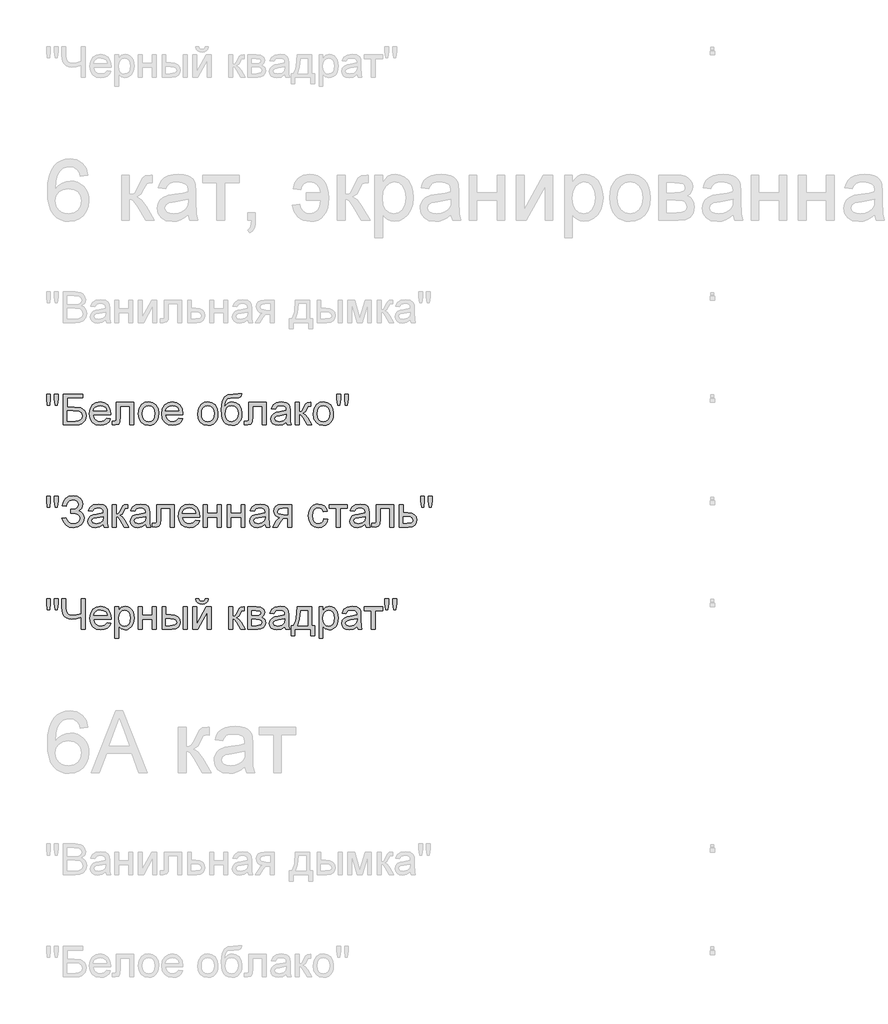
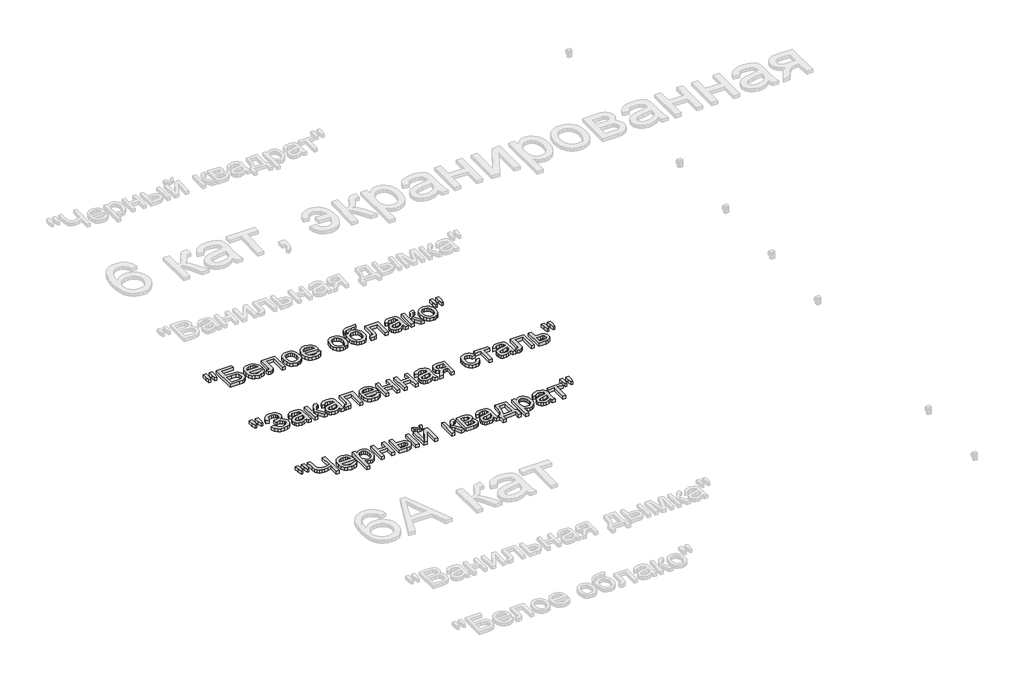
# One storey, part 62 of 168: 3 proxies.
"""IFC4 building model written with IfcOpenShell, lengths in millimetres."""

import ifcopenshell
import ifcopenshell.guid

model = None  # the IFC model being written
_history = None  # IfcOwnerHistory: only IFC2X3 demands one
_inside = {}  # id of a spatial element -> (the spatial element, [elements in it])
_under = {}  # id of a project, library or spatial element -> (it, [spatial elements below it])
_declared = {}  # id of a project -> (the project, [libraries it declares])
_typed = {}  # id of a type object -> (the type object, [elements of that type])
_made_of = {}  # id of a material, layer set ... -> (it, [elements and type objects made of it])


def new_model(schema):
    """Start an empty IFC model of exactly this schema.

    Asked for "IFC4X3", IfcOpenShell would pick the latest addendum, in which some entities
    have other attributes; the version numbers below select the first issue.
    IFC2X3 requires an IfcOwnerHistory on every rooted entity: one is made here for all.
    """
    global model, _history
    if schema == "IFC4X3":
        model = ifcopenshell.file(schema_version=(4, 3, 0, 0))
    else:
        model = ifcopenshell.file(schema=schema)
    _inside.clear()
    _under.clear()
    _declared.clear()
    _typed.clear()
    _made_of.clear()
    _history = None
    if model.schema == "IFC2X3":
        org = make("IfcOrganization", Name="unknown")
        user = make(
            "IfcPersonAndOrganization",
            ThePerson=make("IfcPerson", FamilyName="unknown"),
            TheOrganization=org,
        )
        app = make(
            "IfcApplication",
            ApplicationDeveloper=org,
            Version="unknown",
            ApplicationFullName="unknown",
            ApplicationIdentifier="unknown",
        )
        _history = make(
            "IfcOwnerHistory",
            OwningUser=user,
            OwningApplication=app,
            ChangeAction="ADDED",
            CreationDate=0,
        )
    return model


def make(cls, **values):
    """One entity of the class cls with the attributes given. An attribute that is None is left unset."""
    return model.create_entity(
        cls, **{name: value for name, value in values.items() if value is not None}
    )


def rooted(cls, **values):
    """An entity with a GlobalId (a new one), such as an element, a storey or a relation."""
    return make(cls, GlobalId=ifcopenshell.guid.new(), OwnerHistory=_history, **values)


def si_unit(unit_type, name, prefix=None):
    """IfcSIUnit, for example si_unit("LENGTHUNIT", "METRE", prefix="MILLI")."""
    return make("IfcSIUnit", UnitType=unit_type, Prefix=prefix, Name=name)


def assignment(units):
    """IfcUnitAssignment: the units of a project."""
    return None if units is None else make("IfcUnitAssignment", Units=units)


def point(xyz):
    """IfcCartesianPoint."""
    return None if xyz is None else make("IfcCartesianPoint", Coordinates=xyz)


def direction(xyz):
    """IfcDirection."""
    return None if xyz is None else make("IfcDirection", DirectionRatios=xyz)


def frame(location, z_axis=None, x_axis=None):
    """IfcAxis2Placement3D, a coordinate frame: its origin and axes. An axis left out is left unset."""
    return make(
        "IfcAxis2Placement3D",
        Location=point(location),
        Axis=direction(z_axis),
        RefDirection=direction(x_axis),
    )


def origin():
    """The frame at (0, 0, 0) with its axes left unset."""
    return frame((0.0, 0.0, 0.0))


def origin_with_axes():
    """The frame at (0, 0, 0) with the z axis (0, 0, 1) and the x axis (1, 0, 0) written out."""
    return frame((0.0, 0.0, 0.0), z_axis=(0.0, 0.0, 1.0), x_axis=(1.0, 0.0, 0.0))


def place(relative_to, where):
    """IfcLocalPlacement: puts the frame where relative to a parent placement (None: the world)."""
    return make(
        "IfcLocalPlacement", PlacementRelTo=relative_to, RelativePlacement=where
    )


def context(
    kind, dimensions, precision=None, world=None, true_north=None, identifier=None
):
    """IfcGeometricRepresentationContext, for example the 3D "Model" context."""
    return make(
        "IfcGeometricRepresentationContext",
        ContextIdentifier=identifier,
        ContextType=kind,
        CoordinateSpaceDimension=dimensions,
        Precision=precision,
        WorldCoordinateSystem=world,
        TrueNorth=true_north,
    )


def project(units=None, contexts=None):
    """IfcProject with its units and contexts."""
    return rooted(
        "IfcProject",
        Name="project",
        RepresentationContexts=contexts,
        UnitsInContext=assignment(units),
    )


def spatial(cls, under=None, at=None, **own):
    """A site, building, storey or space (cls), placed at a placement, below another one or the project."""
    s = rooted(cls, ObjectPlacement=at, **own)
    if under is not None:
        _under.setdefault(under.id(), (under, []))[1].append(s)
    return s


def polyline(points):
    """IfcPolyline through the points."""
    return make("IfcPolyline", Points=[point(p) for p in points])


def outline(outer, holes=None, kind="AREA"):
    """IfcArbitraryClosedProfileDef: a profile drawn as a closed curve; with holes, ...WithVoids."""
    if holes is None:
        return make("IfcArbitraryClosedProfileDef", ProfileType=kind, OuterCurve=outer)
    return make(
        "IfcArbitraryProfileDefWithVoids",
        ProfileType=kind,
        OuterCurve=outer,
        InnerCurves=holes,
    )


def extrude(swept, where, along, depth):
    """IfcExtrudedAreaSolid: the profile swept, set in the frame where, extruded along a direction by depth."""
    return make(
        "IfcExtrudedAreaSolid",
        SweptArea=swept,
        Position=where,
        ExtrudedDirection=direction(along),
        Depth=depth,
    )


def shape(context_of_items, identifier, shape_type, items):
    """IfcShapeRepresentation: the items that make up one representation, for example the "Body"."""
    return make(
        "IfcShapeRepresentation",
        ContextOfItems=context_of_items,
        RepresentationIdentifier=identifier,
        RepresentationType=shape_type,
        Items=items,
    )


def made_of(thing, what):
    """Note that an element or type object is made of a material, layer set ...; save() writes the relation."""
    if what is not None:
        _made_of.setdefault(what.id(), (what, []))[1].append(thing)
    return thing


def element(
    cls,
    number,
    at=None,
    inside=None,
    cuts=None,
    type_object=None,
    material=None,
    context=None,
    identifier="Body",
    shape_type=None,
    held_by="IfcProductDefinitionShape",
    body=None,
    shapes=None,
    **own,
):
    """One element of the class cls, such as IfcWall. Its Tag is "e" and its number.

    at: its placement. inside: the storey or other place that contains it. cuts: it is an
    opening in that element (IfcRelVoidsElement). A single representation is given by context,
    identifier, shape_type and body (its items); several are given by shapes. held_by: the class
    of the entity that holds the representations. save() writes the other relations.
    """
    e = rooted(cls, Tag="e%d" % number, ObjectPlacement=at, **own)
    if body is not None:
        shapes = [shape(context, identifier, shape_type, body)]
    if shapes is not None:
        e.Representation = make(held_by, Representations=shapes)
    if inside is not None:
        _inside.setdefault(inside.id(), (inside, []))[1].append(e)
    if cuts is not None:
        rooted(
            "IfcRelVoidsElement", RelatingBuildingElement=cuts, RelatedOpeningElement=e
        )
    if type_object is not None:
        _typed.setdefault(type_object.id(), (type_object, []))[1].append(e)
    return made_of(e, material)


def aggregate(whole, parts):
    """IfcRelAggregates: a whole, such as a stair, and the parts it consists of."""
    return rooted("IfcRelAggregates", RelatingObject=whole, RelatedObjects=parts)


def save(model, path):
    """Write the relations noted so far, then the file.

    IfcRelAggregates (storeys below a building ...), IfcRelContainedInSpatialStructure (elements
    in a storey), IfcRelDefinesByType, IfcRelAssociatesMaterial and IfcRelDeclares: one each for
    every whole, place, type object, material and project.
    """
    for whole, parts in _under.values():
        aggregate(whole, parts)
    for where, things in _inside.values():
        rooted(
            "IfcRelContainedInSpatialStructure",
            RelatedElements=things,
            RelatingStructure=where,
        )
    for kind, things in _typed.values():
        rooted("IfcRelDefinesByType", RelatedObjects=things, RelatingType=kind)
    for what, things in _made_of.values():
        rooted("IfcRelAssociatesMaterial", RelatedObjects=things, RelatingMaterial=what)
    for by, libraries in _declared.values():
        rooted("IfcRelDeclares", RelatingContext=by, RelatedDefinitions=libraries)
    model.write(path)


model = new_model("IFC4")

# Units and contexts
model_context = context("Model", 3, world=origin())
ifc_project = project(units=[si_unit("LENGTHUNIT", "METRE", prefix="MILLI")], contexts=[model_context])

# Site, building, storey
site = spatial("IfcSite", under=ifc_project)
building = spatial("IfcBuilding", under=site)
storey = spatial("IfcBuildingStorey", under=building, Name="Этаж 01", Elevation=0.0)

# Proxies
placement = place(None, origin())
element("IfcBuildingElementProxy", 1, Name="150", ObjectType="150", at=placement, inside=storey, context=model_context, shape_type="SweptSolid", body=[
    extrude(outline(polyline([(60180.1485789, -40970.3300622), (60175.550054, -40941.2305964), (60175.550054, -40916.1778325), (60194.3856121, -40916.1778325), (60194.3856121, -40941.2305964), (60190.2653338, -40970.3300622), (60180.1485789, -40970.3300622)])), origin_with_axes(), (0.0, 0.0, 1.0), 20.0),
    extrude(outline(polyline([(60217.7093306, -40970.3300622), (60213.2211703, -40941.2305964), (60213.2211703, -40916.1778325), (60232.0567284, -40916.1778325), (60232.0567284, -40941.2305964), (60227.6421445, -40970.3300622), (60217.7093306, -40970.3300622)])), origin_with_axes(), (0.0, 0.0, 1.0), 20.0),
    extrude(outline(polyline([(60257.9556209, -40916.1778325), (60352.1334117, -40916.1778325), (60352.1334117, -40935.0133907), (60276.791179, -40935.0133907), (60276.791179, -40979.7478413), (60312.0710624, -40979.7478413), (60343.157091, -40983.573814), (60353.5589544, -40989.101241), (60361.6615553, -40998.0315764), (60366.8762826, -41009.5278888), (60368.614525, -41022.7532465), (60363.6665122, -41044.2191609), (60348.8960501, -41060.5347274), (60335.6247071, -41065.2804052), (60315.4555767, -41066.8622977), (60257.9556209, -41066.8622977), (60257.9556209, -40916.1778325)]), holes=[polyline([(60276.791179, -41048.0267396), (60317.1478339, -41048.0267396), (60331.4124583, -41046.4724382), (60341.6119866, -41041.8095339), (60347.7372218, -41034.0380267), (60349.7789669, -41023.1579167), (60345.1068655, -41008.4058487), (60332.102237, -41000.533174), (60303.7201411, -40998.5833994), (60276.791179, -40998.5833994), (60276.791179, -41048.0267396)])]), origin_with_axes(), (0.0, 0.0, 1.0), 20.0),
    extrude(outline(polyline([(60469.6349209, -41033.900071), (60488.1025971, -41036.2545157), (60481.4485315, -41050.1696522), (60470.8305374, -41060.5715156), (60456.4877381, -41067.0554358), (60438.6592569, -41069.2167425), (60416.5587461, -41065.4873388), (60399.5534008, -41054.2991276), (60388.710079, -41036.3786759), (60385.0956384, -41012.4525506), (60388.7468672, -40987.7216835), (60399.7005536, -40969.2264162), (60416.4759726, -40957.6933157), (60437.5923991, -40953.8489488), (60458.0512366, -40957.6841186), (60474.3989927, -40969.189628), (60485.1181544, -40987.6481071), (60488.6912083, -41012.342186), (60488.5808437, -41017.4189576), (60403.9311966, -41017.4189576), (60407.1915508, -41031.518035), (60414.7653213, -41041.8831103), (60425.6960151, -41048.2566658), (60439.0271389, -41050.3811843), (60457.4948151, -41046.444847), (60469.6349209, -41033.900071)]), holes=[polyline([(60403.9311966, -40998.5833994), (60469.8556501, -40998.5833994), (60467.3080673, -40988.6321915), (60462.3140692, -40981.5136749), (60451.3327917, -40974.8917989), (60437.5188227, -40972.684507), (60424.8222954, -40974.445742), (60414.3238629, -40979.7294472), (60407.0260039, -40987.9654053), (60403.9311966, -40998.5833994)])]), origin_with_axes(), (0.0, 0.0, 1.0), 20.0),
    extrude(outline(polyline([(60516.9445455, -40956.2033936), (60601.7045572, -40956.2033936), (60601.7045572, -41066.7519331), (60582.868999, -41066.7519331), (60582.868999, -40975.0389517), (60535.7801036, -40975.0389517), (60535.7801036, -41027.830018), (60534.5109108, -41052.1838061), (60527.539547, -41062.4661079), (60511.0584336, -41066.8622977), (60495.7545426, -41065.9058045), (60495.7545426, -41048.0267396), (60504.1790403, -41048.0267396), (60512.6955084, -41046.8679113), (60516.0984169, -41043.1890913), (60516.9445455, -41026.7631603), (60516.9445455, -40956.2033936)])), origin_with_axes(), (0.0, 0.0, 1.0), 20.0),
    extrude(outline(polyline([(60625.2490049, -41011.5328457), (60629.323298, -40984.852204), (60641.5461773, -40966.0994193), (60656.6477332, -40956.9115664), (60674.7291332, -40953.8489488), (60694.516586, -40957.5783525), (60710.3217163, -40968.7665637), (60720.6821929, -40986.5306656), (60724.1356852, -41009.9877413), (60722.6089749, -41029.0164375), (60718.0288441, -41043.501791), (60710.5286499, -41054.3497114), (60700.2417496, -41062.4661079), (60688.0234688, -41067.5290839), (60674.7291332, -41069.2167425), (60654.7025571, -41065.5011344), (60638.915821, -41054.3543099), (60628.6657089, -41036.2177275), (60625.2490049, -41011.5328457)]), holes=[polyline([(60644.084563, -41011.4960575), (60646.2642638, -41028.5427894), (60652.8033663, -41040.6874938), (60662.6442097, -41047.9577617), (60674.7291332, -41050.3811843), (60686.7588745, -41047.9439661), (60696.5813237, -41040.6323115), (60703.1204262, -41028.3266587), (60705.300127, -41010.9074463), (60703.1066306, -40994.357355), (60696.5261414, -40982.3781975), (60686.6898966, -40975.1079296), (60674.7291332, -40972.684507), (60662.6442097, -40975.0987326), (60652.8033663, -40982.3414093), (60646.2642638, -40994.4585226), (60644.084563, -41011.4960575)])]), origin_with_axes(), (0.0, 0.0, 1.0), 20.0),
    extrude(outline(polyline([(60822.8016363, -41033.900071), (60841.2693124, -41036.2545157), (60834.6152469, -41050.1696522), (60823.9972528, -41060.5715156), (60809.6544535, -41067.0554358), (60791.8259723, -41069.2167425), (60769.7254614, -41065.4873388), (60752.7201162, -41054.2991276), (60741.8767944, -41036.3786759), (60738.2623538, -41012.4525506), (60741.9135826, -40987.7216835), (60752.867269, -40969.2264162), (60769.642688, -40957.6933157), (60790.7591145, -40953.8489488), (60811.217952, -40957.6841186), (60827.5657081, -40969.189628), (60838.2848698, -40987.6481071), (60841.8579236, -41012.342186), (60841.747559, -41017.4189576), (60757.0979119, -41017.4189576), (60760.3582661, -41031.518035), (60767.9320367, -41041.8831103), (60778.8627305, -41048.2566658), (60792.1938543, -41050.3811843), (60810.6615304, -41046.444847), (60822.8016363, -41033.900071)]), holes=[polyline([(60757.0979119, -40998.5833994), (60823.0223655, -40998.5833994), (60820.4747827, -40988.6321915), (60815.4807846, -40981.5136749), (60804.499507, -40974.8917989), (60790.6855381, -40972.684507), (60777.9890107, -40974.445742), (60767.4905783, -40979.7294472), (60760.1927192, -40987.9654053), (60757.0979119, -40998.5833994)])]), origin_with_axes(), (0.0, 0.0, 1.0), 20.0),
    extrude(outline(polyline([(60914.8457115, -41011.5328457), (60918.9200046, -40984.852204), (60931.1428839, -40966.0994193), (60946.2444398, -40956.9115664), (60964.3258398, -40953.8489488), (60984.1132926, -40957.5783525), (60999.9184229, -40968.7665637), (61010.2788995, -40986.5306656), (61013.7323918, -41009.9877413), (61012.2056815, -41029.0164375), (61007.6255507, -41043.501791), (61000.1253565, -41054.3497114), (60989.8384562, -41062.4661079), (60977.6201754, -41067.5290839), (60964.3258398, -41069.2167425), (60944.2992637, -41065.5011344), (60928.5125276, -41054.3543099), (60918.2624155, -41036.2177275), (60914.8457115, -41011.5328457)]), holes=[polyline([(60933.6812696, -41011.4960575), (60935.8609704, -41028.5427894), (60942.4000729, -41040.6874938), (60952.2409163, -41047.9577617), (60964.3258398, -41050.3811843), (60976.3555811, -41047.9439661), (60986.1780303, -41040.6323115), (60992.7171328, -41028.3266587), (60994.8968336, -41010.9074463), (60992.7033372, -40994.357355), (60986.122848, -40982.3781975), (60976.2866032, -40975.1079296), (60964.3258398, -40972.684507), (60952.2409163, -40975.0987326), (60942.4000729, -40982.3414093), (60935.8609704, -40994.4585226), (60933.6812696, -41011.4960575)])]), origin_with_axes(), (0.0, 0.0, 1.0), 20.0),
    extrude(outline(polyline([(61112.6190721, -40913.8233877), (61129.1001855, -40913.8233877), (61124.2441431, -40928.5202734), (61114.6424231, -40933.8361683), (61091.576222, -40935.0133907), (61060.5085875, -40939.3543982), (61053.3808738, -40945.0013868), (61048.5892108, -40953.2603376), (61044.560903, -40977.8716431), (61060.8764695, -40959.8454253), (61070.7954878, -40955.3480679), (61081.9009255, -40953.8489488), (61101.4998388, -40957.661126), (61117.401538, -40969.0976575), (61127.9413572, -40987.0365033), (61131.4546302, -41010.3556233), (61129.7117893, -41028.3358558), (61124.4832664, -41042.766027), (61107.9469707, -41062.3189551), (61096.6529935, -41067.4922957), (61081.9009255, -41069.2167425), (61064.9001788, -41066.995655), (61052.1576662, -41060.3323923), (61042.7812738, -41050.2064404), (61035.8788879, -41037.597285), (61031.6298508, -41018.6099755), (61030.2135052, -40989.3495614), (61033.786559, -40953.2097538), (61044.5057207, -40931.1690238), (61062.6377045, -40919.9256303), (61088.449225, -40916.1778325), (61109.4184987, -40915.7547682), (61112.6190721, -40913.8233877)]), holes=[polyline([(61112.6190721, -41009.7670121), (61110.577327, -40994.9459662), (61104.4520918, -40983.0771733), (61094.6112484, -40975.2826736), (61081.4226789, -40972.684507), (61067.6730893, -40975.4298264), (61057.473561, -40983.6657845), (61051.1551877, -40996.4910706), (61049.0490633, -41013.0043736), (61051.3759169, -41029.011839), (61058.3564778, -41040.7610702), (61068.7491442, -41047.9761558), (61081.3123143, -41050.3811843), (61093.9398638, -41047.5990768), (61103.937057, -41039.252754), (61110.4485683, -41026.3171033), (61112.6190721, -41009.7670121)])]), origin_with_axes(), (0.0, 0.0, 1.0), 20.0),
    extrude(outline(polyline([(61164.416857, -40956.2033936), (61249.1768687, -40956.2033936), (61249.1768687, -41066.7519331), (61230.3413105, -41066.7519331), (61230.3413105, -40975.0389517), (61183.2524152, -40975.0389517), (61183.2524152, -41027.830018), (61181.9832223, -41052.1838061), (61175.0118585, -41062.4661079), (61158.5307451, -41066.8622977), (61143.2268541, -41065.9058045), (61143.2268541, -41048.0267396), (61151.6513518, -41048.0267396), (61160.16782, -41046.8679113), (61163.5707284, -41043.1890913), (61164.416857, -41026.7631603), (61164.416857, -40956.2033936)])), origin_with_axes(), (0.0, 0.0, 1.0), 20.0),
    extrude(outline(polyline([(61348.063549, -41052.7356291), (61329.7982079, -41065.5011344), (61309.6198805, -41069.2167425), (61293.8791296, -41066.9818594), (61282.2678542, -41060.27721), (61275.1079508, -41050.0960758), (61272.7213164, -41037.4317381), (61276.3265599, -41022.5325173), (61285.7995213, -41011.7167867), (61298.9880908, -41005.5363691), (61315.2852632, -41002.7036778), (61347.9531844, -40996.2289547), (61348.063549, -40992.0350999), (61346.766765, -40983.6289963), (61342.8764129, -40978.1291605), (61334.1760037, -40974.0456704), (61322.0542919, -40972.684507), (61302.9980046, -40976.3081446), (61293.9113193, -40989.1656204), (61275.0757612, -40986.8111756), (61283.2243473, -40968.4170758), (61299.6318843, -40957.6381334), (61324.4823131, -40953.8489488), (61347.3093909, -40957.196675), (61360.2036548, -40965.6027786), (61365.9794022, -40978.3866779), (61366.8991071, -40994.8677913), (61366.8991071, -41018.3018744), (61367.8556003, -41051.0249778), (61371.6079967, -41066.8622977), (61352.7724385, -41066.8622977), (61348.063549, -41052.7356291)]), holes=[polyline([(61348.063549, -41015.0645128), (61317.6764962, -41020.8402601), (61301.4712943, -41023.8936807), (61294.1320485, -41028.8600876), (61291.5568745, -41036.1073629), (61297.167075, -41046.2976942), (61313.6297942, -41050.3811843), (61332.6860816, -41045.8746299), (61344.9733402, -41034.9669288), (61347.9531844, -41020.3988017), (61348.063549, -41015.0645128)])]), origin_with_axes(), (0.0, 0.0, 1.0), 20.0),
    extrude(outline(polyline([(61392.7979996, -40956.2033936), (61411.6335578, -40956.2033936), (61411.6335578, -41003.292289), (61424.2519102, -40999.9077746), (61434.5893943, -40980.1892997), (61443.1794388, -40963.1747574), (61450.7578079, -40957.6381334), (61464.5349887, -40956.2033936), (61468.1402322, -40956.2033936), (61468.1402322, -40975.1493163), (61463.0634607, -40975.0389517), (61453.8664108, -40977.0255145), (61447.3916877, -40989.4231377), (61439.7949245, -41002.8324365), (61429.1447407, -41009.3991301), (61441.0273292, -41016.7291788), (61452.6891884, -41032.1710256), (61472.8491218, -41066.8622977), (61451.4383896, -41066.8622977), (61431.6831265, -41032.9067896), (61421.7503126, -41018.5409977), (61411.6335578, -41015.0645128), (61411.6335578, -41066.8622977), (61392.7979996, -41066.8622977), (61392.7979996, -40956.2033936)])), origin_with_axes(), (0.0, 0.0, 1.0), 20.0),
    extrude(outline(polyline([(61479.9124561, -41011.5328457), (61483.9867492, -40984.852204), (61496.2096285, -40966.0994193), (61511.3111844, -40956.9115664), (61529.3925844, -40953.8489488), (61549.1800372, -40957.5783525), (61564.9851674, -40968.7665637), (61575.3456441, -40986.5306656), (61578.7991364, -41009.9877413), (61577.2724261, -41029.0164375), (61572.6922952, -41043.501791), (61565.1921011, -41054.3497114), (61554.9052008, -41062.4661079), (61542.68692, -41067.5290839), (61529.3925844, -41069.2167425), (61509.3660083, -41065.5011344), (61493.5792722, -41054.3543099), (61483.3291601, -41036.2177275), (61479.9124561, -41011.5328457)]), holes=[polyline([(61498.7480142, -41011.4960575), (61500.927715, -41028.5427894), (61507.4668175, -41040.6874938), (61517.3076609, -41047.9577617), (61529.3925844, -41050.3811843), (61541.4223257, -41047.9439661), (61551.2447749, -41040.6323115), (61557.7838774, -41028.3266587), (61559.9635782, -41010.9074463), (61557.7700818, -40994.357355), (61551.1895926, -40982.3781975), (61541.3533478, -40975.1079296), (61529.3925844, -40972.684507), (61517.3076609, -40975.0987326), (61507.4668175, -40982.3414093), (61500.927715, -40994.4585226), (61498.7480142, -41011.4960575)])]), origin_with_axes(), (0.0, 0.0, 1.0), 20.0),
    extrude(outline(polyline([(61599.8787747, -40970.3300622), (61595.2802498, -40941.2305964), (61595.2802498, -40916.1778325), (61614.1158079, -40916.1778325), (61614.1158079, -40941.2305964), (61609.9955296, -40970.3300622), (61599.8787747, -40970.3300622)])), origin_with_axes(), (0.0, 0.0, 1.0), 20.0),
    extrude(outline(polyline([(61637.4395264, -40970.3300622), (61632.9513661, -40941.2305964), (61632.9513661, -40916.1778325), (61651.7869242, -40916.1778325), (61651.7869242, -40941.2305964), (61647.3723403, -40970.3300622), (61637.4395264, -40970.3300622)])), origin_with_axes(), (0.0, 0.0, 1.0), 20.0),
])
element("IfcBuildingElementProxy", 2, Name="150", ObjectType="150", at=placement, inside=storey, context=model_context, shape_type="SweptSolid", body=[
    extrude(outline(polyline([(60180.1485789, -41470.3300622), (60175.550054, -41441.2305964), (60175.550054, -41416.1778325), (60194.3856121, -41416.1778325), (60194.3856121, -41441.2305964), (60190.2653338, -41470.3300622), (60180.1485789, -41470.3300622)])), origin_with_axes(), (0.0, 0.0, 1.0), 20.0),
    extrude(outline(polyline([(60217.7093306, -41470.3300622), (60213.2211703, -41441.2305964), (60213.2211703, -41416.1778325), (60232.0567284, -41416.1778325), (60232.0567284, -41441.2305964), (60227.6421445, -41470.3300622), (60217.7093306, -41470.3300622)])), origin_with_axes(), (0.0, 0.0, 1.0), 20.0),
    extrude(outline(polyline([(60250.8922866, -41524.4822919), (60269.7278447, -41519.7734024), (60281.2977335, -41540.172459), (60292.2284273, -41547.829003), (60306.2217387, -41550.3811843), (60320.398991, -41548.4635995), (60331.2193202, -41542.7108448), (60338.0757209, -41534.2449603), (60340.3611878, -41524.1879863), (60337.8641888, -41513.6527657), (60330.3731916, -41505.517975), (60318.5779752, -41500.3170433), (60303.1683181, -41498.5833994), (60293.2722924, -41498.5833994), (60293.2722924, -41479.7478413), (60314.591054, -41478.221131), (60327.6324708, -41470.4220327), (60333.2978535, -41456.1666054), (60331.4124583, -41447.2960508), (60325.7562726, -41439.6670979), (60316.8811195, -41434.4109839), (60305.3388219, -41432.6589459), (60286.1169876, -41438.0484171), (60275.117316, -41452.3406326), (60272.0822895, -41465.6211727), (60253.2467313, -41460.9122831), (60259.0983543, -41440.3108914), (60269.7002536, -41425.5956116), (60285.0524291, -41416.7664437), (60305.1548809, -41413.8233877), (60324.5468605, -41416.8814068), (60339.4598769, -41426.0554641), (60348.965028, -41439.3222085), (60352.1334117, -41454.6582892), (60347.2037929, -41473.3007093), (60332.4149367, -41487.2158458), (60342.8903765, -41492.0396984), (60351.5080123, -41500.1836861), (60357.2745625, -41510.948833), (60359.196746, -41523.6361633), (60355.508729, -41541.4738415), (60344.444678, -41556.1385376), (60327.2921799, -41565.9471913), (60305.3388219, -41569.2167425), (60286.2365493, -41566.4208393), (60270.7947025, -41558.0331298), (60259.0132816, -41544.053614), (60250.8922866, -41524.4822919)])), origin_with_axes(), (0.0, 0.0, 1.0), 20.0),
    extrude(outline(polyline([(60453.3745367, -41552.7356291), (60435.1091957, -41565.5011344), (60414.9308682, -41569.2167425), (60399.1901174, -41566.9818594), (60387.5788419, -41560.27721), (60380.4189386, -41550.0960758), (60378.0323041, -41537.4317381), (60381.6375477, -41522.5325173), (60391.110509, -41511.7167867), (60404.2990786, -41505.5363691), (60420.596251, -41502.7036778), (60453.2641721, -41496.2289547), (60453.3745367, -41492.0350999), (60452.0777527, -41483.6289963), (60448.1874006, -41478.1291605), (60439.4869914, -41474.0456704), (60427.3652797, -41472.684507), (60408.3089923, -41476.3081446), (60399.222307, -41489.1656204), (60380.3867489, -41486.8111756), (60388.5353351, -41468.4170758), (60404.9428721, -41457.6381334), (60429.7933008, -41453.8489488), (60452.6203786, -41457.196675), (60465.5146426, -41465.6027786), (60471.2903899, -41478.3866779), (60472.2100949, -41494.8677913), (60472.2100949, -41518.3018744), (60473.1665881, -41551.0249778), (60476.9189844, -41566.8622977), (60458.0834263, -41566.8622977), (60453.3745367, -41552.7356291)]), holes=[polyline([(60453.3745367, -41515.0645128), (60422.9874839, -41520.8402601), (60406.782282, -41523.8936807), (60399.4430362, -41528.8600876), (60396.8678623, -41536.1073629), (60402.4780627, -41546.2976942), (60418.940782, -41550.3811843), (60437.9970693, -41545.8746299), (60450.284328, -41534.9669288), (60453.2641721, -41520.3988017), (60453.3745367, -41515.0645128)])]), origin_with_axes(), (0.0, 0.0, 1.0), 20.0),
    extrude(outline(polyline([(60498.1089873, -41456.2033936), (60516.9445455, -41456.2033936), (60516.9445455, -41503.292289), (60529.5628979, -41499.9077746), (60539.900382, -41480.1892997), (60548.4904266, -41463.1747574), (60556.0687957, -41457.6381334), (60569.8459764, -41456.2033936), (60573.4512199, -41456.2033936), (60573.4512199, -41475.1493163), (60568.3744484, -41475.0389517), (60559.1773985, -41477.0255145), (60552.7026754, -41489.4231377), (60545.1059122, -41502.8324365), (60534.4557285, -41509.3991301), (60546.3383169, -41516.7291788), (60558.0001762, -41532.1710256), (60578.1601095, -41566.8622977), (60556.7493774, -41566.8622977), (60536.9941142, -41532.9067896), (60527.0613004, -41518.5409977), (60516.9445455, -41515.0645128), (60516.9445455, -41566.8622977), (60498.1089873, -41566.8622977), (60498.1089873, -41456.2033936)])), origin_with_axes(), (0.0, 0.0, 1.0), 20.0),
    extrude(outline(polyline([(60660.5656764, -41552.7356291), (60642.3003353, -41565.5011344), (60622.1220079, -41569.2167425), (60606.381257, -41566.9818594), (60594.7699816, -41560.27721), (60587.6100782, -41550.0960758), (60585.2234438, -41537.4317381), (60588.8286873, -41522.5325173), (60598.3016487, -41511.7167867), (60611.4902183, -41505.5363691), (60627.7873906, -41502.7036778), (60660.4553118, -41496.2289547), (60660.5656764, -41492.0350999), (60659.2688924, -41483.6289963), (60655.3785403, -41478.1291605), (60646.6781311, -41474.0456704), (60634.5564193, -41472.684507), (60615.500132, -41476.3081446), (60606.4134467, -41489.1656204), (60587.5778886, -41486.8111756), (60595.7264748, -41468.4170758), (60612.1340117, -41457.6381334), (60636.9844405, -41453.8489488), (60659.8115183, -41457.196675), (60672.7057822, -41465.6027786), (60678.4815296, -41478.3866779), (60679.4012346, -41494.8677913), (60679.4012346, -41518.3018744), (60680.3577277, -41551.0249778), (60684.1101241, -41566.8622977), (60665.2745659, -41566.8622977), (60660.5656764, -41552.7356291)]), holes=[polyline([(60660.5656764, -41515.0645128), (60630.1786236, -41520.8402601), (60613.9734217, -41523.8936807), (60606.6341759, -41528.8600876), (60604.0590019, -41536.1073629), (60609.6692024, -41546.2976942), (60626.1319217, -41550.3811843), (60645.188209, -41545.8746299), (60657.4754676, -41534.9669288), (60660.4553118, -41520.3988017), (60660.5656764, -41515.0645128)])]), origin_with_axes(), (0.0, 0.0, 1.0), 20.0),
    extrude(outline(polyline([(60714.7179061, -41456.2033936), (60799.4779178, -41456.2033936), (60799.4779178, -41566.7519331), (60780.6423596, -41566.7519331), (60780.6423596, -41475.0389517), (60733.5534643, -41475.0389517), (60733.5534643, -41527.830018), (60732.2842714, -41552.1838061), (60725.3129076, -41562.4661079), (60708.8317942, -41566.8622977), (60693.5279032, -41565.9058045), (60693.5279032, -41548.0267396), (60701.9524009, -41548.0267396), (60710.4688691, -41546.8679113), (60713.8717775, -41543.1890913), (60714.7179061, -41526.7631603), (60714.7179061, -41456.2033936)])), origin_with_axes(), (0.0, 0.0, 1.0), 20.0),
    extrude(outline(polyline([(60905.2072032, -41533.900071), (60923.6748794, -41536.2545157), (60917.0208138, -41550.1696522), (60906.4028197, -41560.5715156), (60892.0600204, -41567.0554358), (60874.2315392, -41569.2167425), (60852.1310283, -41565.4873388), (60835.1256831, -41554.2991276), (60824.2823613, -41536.3786759), (60820.6679207, -41512.4525506), (60824.3191495, -41487.7216835), (60835.2728359, -41469.2264162), (60852.0482549, -41457.6933157), (60873.1646814, -41453.8489488), (60893.6235189, -41457.6841186), (60909.971275, -41469.189628), (60920.6904367, -41487.6481071), (60924.2634906, -41512.342186), (60924.153126, -41517.4189576), (60839.5034789, -41517.4189576), (60842.763833, -41531.518035), (60850.3376036, -41541.8831103), (60861.2682974, -41548.2566658), (60874.5994212, -41550.3811843), (60893.0670974, -41546.444847), (60905.2072032, -41533.900071)]), holes=[polyline([(60839.5034789, -41498.5833994), (60905.4279324, -41498.5833994), (60902.8803496, -41488.6321915), (60897.8863515, -41481.5136749), (60886.9050739, -41474.8917989), (60873.091105, -41472.684507), (60860.3945777, -41474.445742), (60849.8961452, -41479.7294472), (60842.5982861, -41487.9654053), (60839.5034789, -41498.5833994)])]), origin_with_axes(), (0.0, 0.0, 1.0), 20.0),
    extrude(outline(polyline([(60943.0990487, -41456.2033936), (60961.9346069, -41456.2033936), (60961.9346069, -41498.5833994), (61011.377947, -41498.5833994), (61011.377947, -41456.2033936), (61030.2135052, -41456.2033936), (61030.2135052, -41566.8622977), (61011.377947, -41566.8622977), (61011.377947, -41517.4189576), (60961.9346069, -41517.4189576), (60961.9346069, -41566.8622977), (60943.0990487, -41566.8622977), (60943.0990487, -41456.2033936)])), origin_with_axes(), (0.0, 0.0, 1.0), 20.0),
    extrude(outline(polyline([(61058.4668424, -41456.2033936), (61077.3024005, -41456.2033936), (61077.3024005, -41498.5833994), (61126.7457407, -41498.5833994), (61126.7457407, -41456.2033936), (61145.5812988, -41456.2033936), (61145.5812988, -41566.8622977), (61126.7457407, -41566.8622977), (61126.7457407, -41517.4189576), (61077.3024005, -41517.4189576), (61077.3024005, -41566.8622977), (61058.4668424, -41566.8622977), (61058.4668424, -41456.2033936)])), origin_with_axes(), (0.0, 0.0, 1.0), 20.0),
    extrude(outline(polyline([(61244.4679792, -41552.7356291), (61226.2026381, -41565.5011344), (61206.0243107, -41569.2167425), (61190.2835598, -41566.9818594), (61178.6722843, -41560.27721), (61171.512381, -41550.0960758), (61169.1257465, -41537.4317381), (61172.7309901, -41522.5325173), (61182.2039515, -41511.7167867), (61195.392521, -41505.5363691), (61211.6896934, -41502.7036778), (61244.3576146, -41496.2289547), (61244.4679792, -41492.0350999), (61243.1711951, -41483.6289963), (61239.280843, -41478.1291605), (61230.5804338, -41474.0456704), (61218.4587221, -41472.684507), (61199.4024347, -41476.3081446), (61190.3157495, -41489.1656204), (61171.4801913, -41486.8111756), (61179.6287775, -41468.4170758), (61196.0363145, -41457.6381334), (61220.8867433, -41453.8489488), (61243.7138211, -41457.196675), (61256.608085, -41465.6027786), (61262.3838323, -41478.3866779), (61263.3035373, -41494.8677913), (61263.3035373, -41518.3018744), (61264.2600305, -41551.0249778), (61268.0124268, -41566.8622977), (61249.1768687, -41566.8622977), (61244.4679792, -41552.7356291)]), holes=[polyline([(61244.4679792, -41515.0645128), (61214.0809264, -41520.8402601), (61197.8757245, -41523.8936807), (61190.5364787, -41528.8600876), (61187.9613047, -41536.1073629), (61193.5715051, -41546.2976942), (61210.0342244, -41550.3811843), (61229.0905118, -41545.8746299), (61241.3777704, -41534.9669288), (61244.3576146, -41520.3988017), (61244.4679792, -41515.0645128)])]), origin_with_axes(), (0.0, 0.0, 1.0), 20.0),
    extrude(outline(polyline([(61373.9624415, -41456.2033936), (61373.9624415, -41566.8622977), (61355.1268833, -41566.8622977), (61355.1268833, -41524.4822919), (61344.8629756, -41524.4822919), (61330.8834598, -41526.8735249), (61317.7500726, -41542.949968), (61302.7404872, -41566.8622977), (61280.9618731, -41566.8622977), (61299.8710076, -41536.6223977), (61308.2219289, -41525.7698789), (61315.9106626, -41520.9506247), (61303.0347928, -41517.0050903), (61293.9848957, -41509.5094947), (61288.6322127, -41499.5398926), (61286.847985, -41488.172339), (61289.2852032, -41475.278075), (61296.5968579, -41465.0693497), (61308.5254316, -41458.4198826), (61324.8134069, -41456.2033936), (61373.9624415, -41456.2033936)]), holes=[polyline([(61355.1268833, -41475.0389517), (61330.2948486, -41475.0389517), (61317.4695626, -41476.1288021), (61310.1900976, -41479.3983534), (61305.6835431, -41489.6070787), (61307.3436107, -41496.7853762), (61312.3238132, -41501.7655787), (61335.8498668, -41505.6467337), (61355.1268833, -41505.6467337), (61355.1268833, -41475.0389517)])]), origin_with_axes(), (0.0, 0.0, 1.0), 20.0),
    extrude(outline(polyline([(61531.710241, -41526.8367367), (61550.5457991, -41529.1911814), (61545.2942837, -41545.9436078), (61535.4258491, -41558.6033469), (61521.8693976, -41566.5633936), (61505.5538311, -41569.2167425), (61485.518058, -41565.5149299), (61469.8508835, -41554.4094922), (61459.7387272, -41536.387873), (61456.3680084, -41511.9375159), (61457.8073467, -41495.1758924), (61462.1253616, -41480.6491522), (61469.391031, -41468.918315), (61479.6733328, -41460.5444011), (61491.974387, -41455.5228119), (61505.2963137, -41453.8489488), (61521.2118085, -41456.1482113), (61533.9359271, -41463.0459987), (61543.0639991, -41474.174429), (61548.1913544, -41489.1656204), (61529.3557962, -41491.5200651), (61520.6185988, -41477.4117906), (61505.4434665, -41472.684507), (61493.271171, -41475.0113606), (61483.6096701, -41481.9919214), (61477.3050924, -41494.0032686), (61475.2035665, -41511.4224811), (61477.2591072, -41529.0762183), (61483.4257291, -41541.1289522), (61492.9124861, -41548.0681263), (61504.9284317, -41550.3811843), (61514.6819031, -41548.9372475), (61522.678738, -41544.605437), (61528.4958721, -41537.2753883), (61531.710241, -41526.8367367)])), origin_with_axes(), (0.0, 0.0, 1.0), 20.0),
    extrude(outline(polyline([(61557.6091334, -41456.2033936), (61647.0780347, -41456.2033936), (61647.0780347, -41475.0389517), (61611.7613631, -41475.0389517), (61611.7613631, -41566.8622977), (61592.925805, -41566.8622977), (61592.925805, -41475.0389517), (61557.6091334, -41475.0389517), (61557.6091334, -41456.2033936)])), origin_with_axes(), (0.0, 0.0, 1.0), 20.0),
    extrude(outline(polyline([(61734.1924911, -41552.7356291), (61715.9271501, -41565.5011344), (61695.7488226, -41569.2167425), (61680.0080718, -41566.9818594), (61668.3967963, -41560.27721), (61661.236893, -41550.0960758), (61658.8502585, -41537.4317381), (61662.4555021, -41522.5325173), (61671.9284634, -41511.7167867), (61685.117033, -41505.5363691), (61701.4142054, -41502.7036778), (61734.0821265, -41496.2289547), (61734.1924911, -41492.0350999), (61732.8957071, -41483.6289963), (61729.005355, -41478.1291605), (61720.3049458, -41474.0456704), (61708.1832341, -41472.684507), (61689.1269467, -41476.3081446), (61680.0402614, -41489.1656204), (61661.2047033, -41486.8111756), (61669.3532895, -41468.4170758), (61685.7608265, -41457.6381334), (61710.6112552, -41453.8489488), (61733.438333, -41457.196675), (61746.332597, -41465.6027786), (61752.1083443, -41478.3866779), (61753.0280493, -41494.8677913), (61753.0280493, -41518.3018744), (61753.9845425, -41551.0249778), (61757.7369388, -41566.8622977), (61738.9013807, -41566.8622977), (61734.1924911, -41552.7356291)]), holes=[polyline([(61734.1924911, -41515.0645128), (61703.8054383, -41520.8402601), (61687.6002364, -41523.8936807), (61680.2609906, -41528.8600876), (61677.6858167, -41536.1073629), (61683.2960171, -41546.2976942), (61699.7587364, -41550.3811843), (61718.8150237, -41545.8746299), (61731.1022824, -41534.9669288), (61734.0821265, -41520.3988017), (61734.1924911, -41515.0645128)])]), origin_with_axes(), (0.0, 0.0, 1.0), 20.0),
    extrude(outline(polyline([(61788.3447208, -41456.2033936), (61873.1047325, -41456.2033936), (61873.1047325, -41566.7519331), (61854.2691744, -41566.7519331), (61854.2691744, -41475.0389517), (61807.180279, -41475.0389517), (61807.180279, -41527.830018), (61805.9110861, -41552.1838061), (61798.9397223, -41562.4661079), (61782.4586089, -41566.8622977), (61767.1547179, -41565.9058045), (61767.1547179, -41548.0267396), (61775.5792156, -41548.0267396), (61784.0956838, -41546.8679113), (61787.4985922, -41543.1890913), (61788.3447208, -41526.7631603), (61788.3447208, -41456.2033936)])), origin_with_axes(), (0.0, 0.0, 1.0), 20.0),
    extrude(outline(polyline([(61901.3580697, -41456.2033936), (61920.1936279, -41456.2033936), (61920.1936279, -41496.2289547), (61941.8986656, -41496.2289547), (61960.7158297, -41498.587998), (61974.6401632, -41505.6651278), (61983.2486019, -41516.8901272), (61986.1180814, -41531.692779), (61983.6762647, -41545.1710556), (61976.3508145, -41556.5432078), (61963.6542871, -41564.2825252), (61945.099239, -41566.8622977), (61901.3580697, -41566.8622977), (61901.3580697, -41456.2033936)]), holes=[polyline([(61920.1936279, -41548.0267396), (61937.7783873, -41548.0267396), (61960.4951005, -41544.0720081), (61965.5856676, -41539.0090322), (61967.2825233, -41531.7295672), (61962.260934, -41520.1412843), (61954.1905228, -41516.3337057), (61940.0224674, -41515.0645128), (61920.1936279, -41515.0645128), (61920.1936279, -41548.0267396)])]), origin_with_axes(), (0.0, 0.0, 1.0), 20.0),
    extrude(outline(polyline([(62009.5521645, -41470.3300622), (62004.9536396, -41441.2305964), (62004.9536396, -41416.1778325), (62023.7891977, -41416.1778325), (62023.7891977, -41441.2305964), (62019.6689194, -41470.3300622), (62009.5521645, -41470.3300622)])), origin_with_axes(), (0.0, 0.0, 1.0), 20.0),
    extrude(outline(polyline([(62047.1129162, -41470.3300622), (62042.6247559, -41441.2305964), (62042.6247559, -41416.1778325), (62061.460314, -41416.1778325), (62061.460314, -41441.2305964), (62057.0457301, -41470.3300622), (62047.1129162, -41470.3300622)])), origin_with_axes(), (0.0, 0.0, 1.0), 20.0),
])
element("IfcBuildingElementProxy", 3, Name="150", ObjectType="150", at=placement, inside=storey, context=model_context, shape_type="SweptSolid", body=[
    extrude(outline(polyline([(60180.1485789, -41970.3300622), (60175.550054, -41941.2305964), (60175.550054, -41916.1778325), (60194.3856121, -41916.1778325), (60194.3856121, -41941.2305964), (60190.2653338, -41970.3300622), (60180.1485789, -41970.3300622)])), origin_with_axes(), (0.0, 0.0, 1.0), 20.0),
    extrude(outline(polyline([(60217.7093306, -41970.3300622), (60213.2211703, -41941.2305964), (60213.2211703, -41916.1778325), (60232.0567284, -41916.1778325), (60232.0567284, -41941.2305964), (60227.6421445, -41970.3300622), (60217.7093306, -41970.3300622)])), origin_with_axes(), (0.0, 0.0, 1.0), 20.0),
    extrude(outline(polyline([(60363.9056355, -42066.8622977), (60345.0700773, -42066.8622977), (60345.0700773, -42006.5296505), (60320.0908899, -42014.6966308), (60298.4226404, -42017.4189576), (60283.7395502, -42015.556555), (60270.886673, -42009.9693472), (60260.926268, -42001.5172583), (60254.9205944, -41991.0602126), (60250.8922866, -41961.0594359), (60250.8922866, -41916.1778325), (60269.7278447, -41916.1778325), (60269.7278447, -41958.5210502), (60271.990319, -41978.8879171), (60278.7777418, -41990.8394834), (60288.7381468, -41996.6474204), (60300.5195677, -41998.5833994), (60322.2521966, -41996.2473488), (60345.0700773, -41989.2391968), (60345.0700773, -41916.1778325), (60363.9056355, -41916.1778325), (60363.9056355, -42066.8622977)])), origin_with_axes(), (0.0, 0.0, 1.0), 20.0),
    extrude(outline(polyline([(60471.9893657, -42033.900071), (60490.4570418, -42036.2545157), (60483.8029762, -42050.1696522), (60473.1849822, -42060.5715156), (60458.8421829, -42067.0554358), (60441.0137017, -42069.2167425), (60418.9131908, -42065.4873388), (60401.9078456, -42054.2991276), (60391.0645238, -42036.3786759), (60387.4500832, -42012.4525506), (60391.101312, -41987.7216835), (60402.0549984, -41969.2264162), (60418.8304174, -41957.6933157), (60439.9468439, -41953.8489488), (60460.4056814, -41957.6841186), (60476.7534375, -41969.189628), (60487.4725992, -41987.6481071), (60491.045653, -42012.342186), (60490.9352884, -42017.4189576), (60406.2856413, -42017.4189576), (60409.5459955, -42031.518035), (60417.1197661, -42041.8831103), (60428.0504599, -42048.2566658), (60441.3815837, -42050.3811843), (60459.8492598, -42046.444847), (60471.9893657, -42033.900071)]), holes=[polyline([(60406.2856413, -41998.5833994), (60472.2100949, -41998.5833994), (60469.6625121, -41988.6321915), (60464.668514, -41981.5136749), (60453.6872364, -41974.8917989), (60439.8732675, -41972.684507), (60427.1767401, -41974.445742), (60416.6783077, -41979.7294472), (60409.3804486, -41987.9654053), (60406.2856413, -41998.5833994)])]), origin_with_axes(), (0.0, 0.0, 1.0), 20.0),
    extrude(outline(polyline([(60509.8812112, -42109.2423036), (60509.8812112, -41956.2033936), (60528.7167693, -41956.2033936), (60528.7167693, -41974.6710697), (60541.739792, -41959.054479), (60559.3245513, -41953.8489488), (60572.0624654, -41955.6699647), (60583.2000928, -41961.1330123), (60592.268384, -41969.9069979), (60598.7982894, -41981.6608277), (60604.0590019, -42010.6867171), (60602.5736784, -42026.7953499), (60598.1177077, -42041.2025286), (60590.8336442, -42053.1770875), (60580.8640422, -42061.9878613), (60569.2527667, -42067.4095222), (60557.043683, -42069.2167425), (60540.6545401, -42064.3790943), (60528.7167693, -42052.1470179), (60528.7167693, -42109.2423036), (60509.8812112, -42109.2423036)]), holes=[polyline([(60528.7167693, -42012.4157624), (60530.7539159, -42029.301546), (60536.8653555, -42041.1105581), (60545.8830629, -42048.0635278), (60556.6390128, -42050.3811843), (60567.5697066, -42047.9807543), (60576.8173402, -42040.7794643), (60583.1219179, -42028.5381909), (60585.2234438, -42011.0178109), (60583.1725017, -41994.2239978), (60577.0196753, -41982.2494388), (60568.0157635, -41975.0757399), (60557.411565, -41972.684507), (60546.7659797, -41975.2274913), (60537.4171785, -41982.8564441), (60530.8918716, -41995.3322423), (60528.7167693, -42012.4157624)])]), origin_with_axes(), (0.0, 0.0, 1.0), 20.0),
    extrude(outline(polyline([(60625.2490049, -41956.2033936), (60644.084563, -41956.2033936), (60644.084563, -41998.5833994), (60693.5279032, -41998.5833994), (60693.5279032, -41956.2033936), (60712.3634613, -41956.2033936), (60712.3634613, -42066.8622977), (60693.5279032, -42066.8622977), (60693.5279032, -42017.4189576), (60644.084563, -42017.4189576), (60644.084563, -42066.8622977), (60625.2490049, -42066.8622977), (60625.2490049, -41956.2033936)])), origin_with_axes(), (0.0, 0.0, 1.0), 20.0),
    extrude(outline(polyline([(60844.2123684, -41956.2033936), (60863.0479266, -41956.2033936), (60863.0479266, -42066.8622977), (60844.2123684, -42066.8622977), (60844.2123684, -41956.2033936)])), origin_with_axes(), (0.0, 0.0, 1.0), 20.0),
    extrude(outline(polyline([(60740.6167986, -41956.2033936), (60759.4523567, -41956.2033936), (60759.4523567, -41996.2289547), (60782.739287, -41996.2289547), (60802.8670307, -41998.587998), (60817.780047, -42005.6651278), (60827.0092866, -42016.8901272), (60830.0856998, -42031.692779), (60827.5059273, -42045.1710556), (60819.7666098, -42056.5432078), (60806.3619096, -42064.2825252), (60786.785989, -42066.8622977), (60740.6167986, -42066.8622977), (60740.6167986, -41956.2033936)]), holes=[polyline([(60759.4523567, -42048.0267396), (60778.8029497, -42048.0267396), (60803.7821371, -42044.0720081), (60809.3831405, -42039.0090322), (60811.2501416, -42031.7295672), (60805.7135176, -42020.1412843), (60796.8337659, -42016.3337057), (60781.267759, -42015.0645128), (60759.4523567, -42015.0645128), (60759.4523567, -42048.0267396)])]), origin_with_axes(), (0.0, 0.0, 1.0), 20.0),
    extrude(outline(polyline([(60891.3012638, -41956.2033936), (60910.1368219, -41956.2033936), (60910.1368219, -42040.5955233), (60956.4163769, -41956.2033936), (60980.770165, -41956.2033936), (60980.770165, -42066.8622977), (60961.9346069, -42066.8622977), (60961.9346069, -41982.9852028), (60915.9493575, -42066.8622977), (60891.3012638, -42066.8622977), (60891.3012638, -41956.2033936)])), origin_with_axes(), (0.0, 0.0, 1.0), 20.0),
    extrude(outline(polyline([(60952.5168278, -41916.1778325), (60966.6434964, -41916.1778325), (60963.6038714, -41928.2397634), (60957.5016288, -41937.1287121), (60948.6126801, -41942.6055553), (60937.2129368, -41944.4311697), (60924.8429047, -41942.6193509), (60915.2503817, -41937.1838944), (60908.6928851, -41928.3087413), (60905.4279324, -41916.1778325), (60919.554601, -41916.1778325), (60924.8521017, -41926.7912281), (60935.5206796, -41930.3045011), (60947.219327, -41926.9015927), (60952.5168278, -41916.1778325)])), origin_with_axes(), (0.0, 0.0, 1.0), 20.0),
    extrude(outline(polyline([(61067.8846215, -41956.2033936), (61086.7201796, -41956.2033936), (61086.7201796, -42003.292289), (61099.3385321, -41999.9077746), (61109.6760161, -41980.1892997), (61118.2660607, -41963.1747574), (61125.8444298, -41957.6381334), (61139.6216105, -41956.2033936), (61143.2268541, -41956.2033936), (61143.2268541, -41975.1493163), (61138.1500825, -41975.0389517), (61128.9530327, -41977.0255145), (61122.4783096, -41989.4231377), (61114.8815464, -42002.8324365), (61104.2313626, -42009.3991301), (61116.113951, -42016.7291788), (61127.7758103, -42032.1710256), (61147.9357436, -42066.8622977), (61126.5250115, -42066.8622977), (61106.7697484, -42032.9067896), (61096.8369345, -42018.5409977), (61086.7201796, -42015.0645128), (61086.7201796, -42066.8622977), (61067.8846215, -42066.8622977), (61067.8846215, -41956.2033936)])), origin_with_axes(), (0.0, 0.0, 1.0), 20.0),
    extrude(outline(polyline([(61159.7079675, -41956.2033936), (61201.2050565, -41956.2033936), (61223.9585579, -41958.7233853), (61236.7608514, -41967.9572233), (61242.1135344, -41984.0520606), (61238.8761728, -41997.1302655), (61229.1273, -42006.4560741), (61241.7824406, -42016.6647995), (61246.8224239, -42034.4151058), (61243.6310476, -42048.7717006), (61236.0434815, -42058.8792584), (61224.0321343, -42064.8665379), (61207.569415, -42066.8622977), (61159.7079675, -42066.8622977), (61159.7079675, -41956.2033936)]), holes=[polyline([(61178.5435256, -41998.5833994), (61197.1583546, -41998.5833994), (61212.5174279, -41997.6269062), (61219.9854324, -41993.8009335), (61223.2779762, -41986.884752), (61221.8340394, -41981.2653545), (61217.5022289, -41977.6509139), (61197.7469658, -41975.0389517), (61178.5435256, -41975.0389517), (61178.5435256, -41998.5833994)]), polyline([(61178.5435256, -42048.0267396), (61201.6465149, -42048.0267396), (61222.137542, -42044.6238311), (61226.377382, -42039.9839195), (61227.9868658, -42032.8700014), (61224.7678983, -42023.8017102), (61216.3801888, -42018.5226036), (61199.8071049, -42017.4189576), (61178.5435256, -42017.4189576), (61178.5435256, -42048.0267396)])]), origin_with_axes(), (0.0, 0.0, 1.0), 20.0),
    extrude(outline(polyline([(61341.0002147, -42052.7356291), (61322.7348736, -42065.5011344), (61302.5565462, -42069.2167425), (61286.8157953, -42066.9818594), (61275.2045198, -42060.27721), (61268.0446165, -42050.0960758), (61265.6579821, -42037.4317381), (61269.2632256, -42022.5325173), (61278.736187, -42011.7167867), (61291.9247565, -42005.5363691), (61308.2219289, -42002.7036778), (61340.8898501, -41996.2289547), (61341.0002147, -41992.0350999), (61339.7034307, -41983.6289963), (61335.8130786, -41978.1291605), (61327.1126694, -41974.0456704), (61314.9909576, -41972.684507), (61295.9346703, -41976.3081446), (61286.847985, -41989.1656204), (61268.0124268, -41986.8111756), (61276.161013, -41968.4170758), (61292.56855, -41957.6381334), (61317.4189788, -41953.8489488), (61340.2460566, -41957.196675), (61353.1403205, -41965.6027786), (61358.9160679, -41978.3866779), (61359.8357728, -41994.8677913), (61359.8357728, -42018.3018744), (61360.792266, -42051.0249778), (61364.5446624, -42066.8622977), (61345.7091042, -42066.8622977), (61341.0002147, -42052.7356291)]), holes=[polyline([(61341.0002147, -42015.0645128), (61310.6131619, -42020.8402601), (61294.40796, -42023.8936807), (61287.0687142, -42028.8600876), (61284.4935402, -42036.1073629), (61290.1037407, -42046.2976942), (61306.5664599, -42050.3811843), (61325.6227473, -42045.8746299), (61337.9100059, -42034.9669288), (61340.8898501, -42020.3988017), (61341.0002147, -42015.0645128)])]), origin_with_axes(), (0.0, 0.0, 1.0), 20.0),
    extrude(outline(polyline([(61402.2157787, -41956.2033936), (61472.8491218, -41956.2033936), (61472.8491218, -42048.0267396), (61486.9757904, -42048.0267396), (61486.9757904, -42097.4700797), (61468.1402322, -42097.4700797), (61468.1402322, -42066.8622977), (61390.4435548, -42066.8622977), (61390.4435548, -42097.4700797), (61371.6079967, -42097.4700797), (61371.6079967, -42048.0267396), (61383.3802205, -42048.0267396), (61391.9380754, -42032.5619002), (61397.9299534, -42012.1030628), (61402.2157787, -41956.2033936)]), holes=[polyline([(61418.6968921, -41975.0389517), (61414.2823081, -42017.9523865), (61404.5702235, -42048.0267396), (61454.0135636, -42048.0267396), (61454.0135636, -41975.0389517), (61418.6968921, -41975.0389517)])]), origin_with_axes(), (0.0, 0.0, 1.0), 20.0),
    extrude(outline(polyline([(61508.1657933, -42109.2423036), (61508.1657933, -41956.2033936), (61527.0013514, -41956.2033936), (61527.0013514, -41974.6710697), (61540.0243741, -41959.054479), (61557.6091334, -41953.8489488), (61570.3470475, -41955.6699647), (61581.4846749, -41961.1330123), (61590.5529661, -41969.9069979), (61597.0828715, -41981.6608277), (61602.3435841, -42010.6867171), (61600.8582605, -42026.7953499), (61596.4022898, -42041.2025286), (61589.1182263, -42053.1770875), (61579.1486243, -42061.9878613), (61567.5373488, -42067.4095222), (61555.3282651, -42069.2167425), (61538.9391222, -42064.3790943), (61527.0013514, -42052.1470179), (61527.0013514, -42109.2423036), (61508.1657933, -42109.2423036)]), holes=[polyline([(61527.0013514, -42012.4157624), (61529.038498, -42029.301546), (61535.1499376, -42041.1105581), (61544.167645, -42048.0635278), (61554.9235949, -42050.3811843), (61565.8542887, -42047.9807543), (61575.1019223, -42040.7794643), (61581.4065, -42028.5381909), (61583.5080259, -42011.0178109), (61581.4570838, -41994.2239978), (61575.3042574, -41982.2494388), (61566.3003456, -41975.0757399), (61555.6961471, -41972.684507), (61545.0505618, -41975.2274913), (61535.7017606, -41982.8564441), (61529.1764537, -41995.3322423), (61527.0013514, -42012.4157624)])]), origin_with_axes(), (0.0, 0.0, 1.0), 20.0),
    extrude(outline(polyline([(61694.1669301, -42052.7356291), (61675.901589, -42065.5011344), (61655.7232616, -42069.2167425), (61639.9825107, -42066.9818594), (61628.3712352, -42060.27721), (61621.2113319, -42050.0960758), (61618.8246974, -42037.4317381), (61622.429941, -42022.5325173), (61631.9029024, -42011.7167867), (61645.0914719, -42005.5363691), (61661.3886443, -42002.7036778), (61694.0565655, -41996.2289547), (61694.1669301, -41992.0350999), (61692.870146, -41983.6289963), (61688.9797939, -41978.1291605), (61680.2793847, -41974.0456704), (61668.157673, -41972.684507), (61649.1013856, -41976.3081446), (61640.0147004, -41989.1656204), (61621.1791422, -41986.8111756), (61629.3277284, -41968.4170758), (61645.7352654, -41957.6381334), (61670.5856942, -41953.8489488), (61693.412772, -41957.196675), (61706.3070359, -41965.6027786), (61712.0827832, -41978.3866779), (61713.0024882, -41994.8677913), (61713.0024882, -42018.3018744), (61713.9589814, -42051.0249778), (61717.7113777, -42066.8622977), (61698.8758196, -42066.8622977), (61694.1669301, -42052.7356291)]), holes=[polyline([(61694.1669301, -42015.0645128), (61663.7798773, -42020.8402601), (61647.5746754, -42023.8936807), (61640.2354296, -42028.8600876), (61637.6602556, -42036.1073629), (61643.270456, -42046.2976942), (61659.7331753, -42050.3811843), (61678.7894627, -42045.8746299), (61691.0767213, -42034.9669288), (61694.0565655, -42020.3988017), (61694.1669301, -42015.0645128)])]), origin_with_axes(), (0.0, 0.0, 1.0), 20.0),
    extrude(outline(polyline([(61729.4836016, -41956.2033936), (61818.9525028, -41956.2033936), (61818.9525028, -41975.0389517), (61783.6358313, -41975.0389517), (61783.6358313, -42066.8622977), (61764.8002731, -42066.8622977), (61764.8002731, -41975.0389517), (61729.4836016, -41975.0389517), (61729.4836016, -41956.2033936)])), origin_with_axes(), (0.0, 0.0, 1.0), 20.0),
    extrude(outline(polyline([(61835.3232516, -41970.3300622), (61830.7247267, -41941.2305964), (61830.7247267, -41916.1778325), (61849.5602848, -41916.1778325), (61849.5602848, -41941.2305964), (61845.4400065, -41970.3300622), (61835.3232516, -41970.3300622)])), origin_with_axes(), (0.0, 0.0, 1.0), 20.0),
    extrude(outline(polyline([(61872.8840033, -41970.3300622), (61868.395843, -41941.2305964), (61868.395843, -41916.1778325), (61887.2314011, -41916.1778325), (61887.2314011, -41941.2305964), (61882.8168172, -41970.3300622), (61872.8840033, -41970.3300622)])), origin_with_axes(), (0.0, 0.0, 1.0), 20.0),
])

save(model, "model.ifc")
